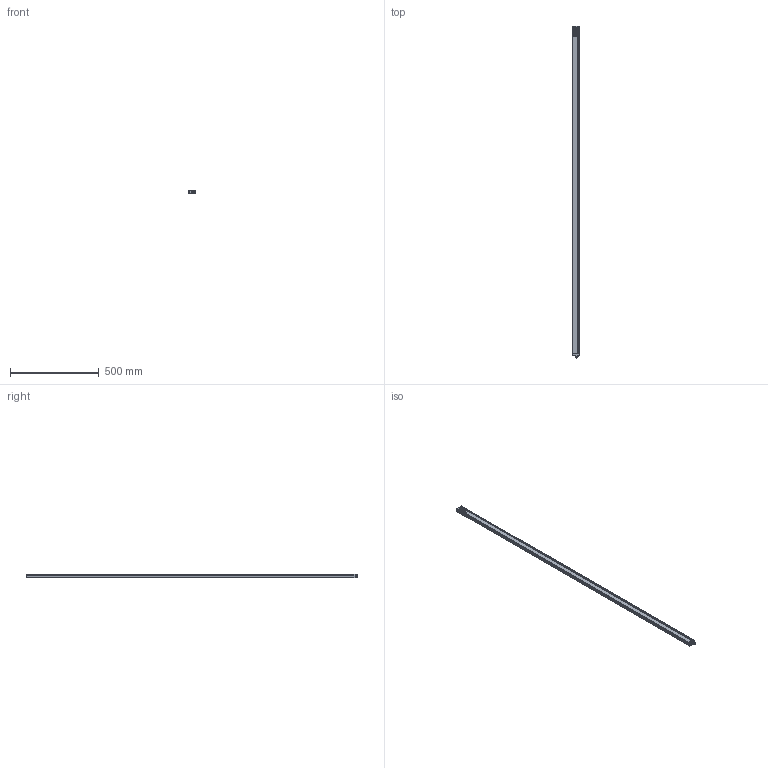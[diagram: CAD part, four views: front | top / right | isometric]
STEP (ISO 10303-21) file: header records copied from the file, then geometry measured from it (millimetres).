
FILE_DESCRIPTION(/* description */ (''),/* implementation_level */ '2;1');
FILE_NAME(/* name */ 'C:\Users\andre\SynologyDrive\Optoscan\Libreria Componenti\00 - Barriere\Barriera sorgente\Argo_1840_RX.stp',/* time_stamp */ '2021-04-22T12:18:29+02:00',/* author */ ('andre'),/* organization */ (''),/* preprocessor_version */ 'ST-DEVELOPER v18',/* originating_system */ 'Autodesk Inventor 2020',/* authorisation */ '');
FILE_SCHEMA (('AUTOMOTIVE_DESIGN { 1 0 10303 214 3 1 1 }'));
Length unit declared in the file: millimetre
Products named in the file (1): Argo_1840_RX
Bounding box: 40.5 x 1873.3 x 20.75 mm (x, y, z)
Volume: 369391.3 mm3; surface area: 489538.6 mm2
Topology: 1 solids, 1 shells, 692 faces, 1898 edges, 1217 vertices
Faces by surface type: plane 319, cylinder 195, bspline 94, torus 70, cone 8, sphere 6
Full cylindrical faces by diameter (mm): 1 x4, 2.459 x4, 2.5 x4, 3 x4, 3.5 x4, 5.5 x4, 8 x1, 10.5 x2, 11.75 x9, 15.7 x1, 17.5 x1
Entity records: 28165 total; most frequent: CARTESIAN_POINT 10195, ORIENTED_EDGE 3778, DIRECTION 3387, EDGE_CURVE 1889, VERTEX_POINT 1217, AXIS2_PLACEMENT_3D 1183, LINE 1021, VECTOR 1021
